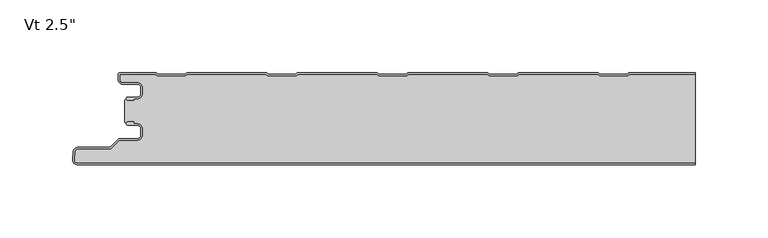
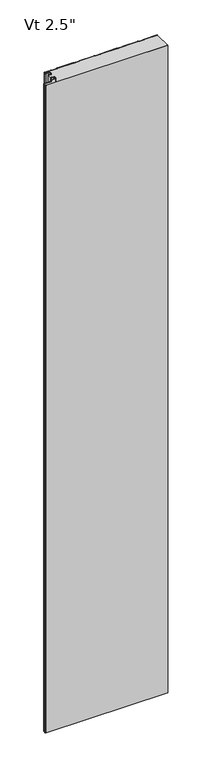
"""IFC4 building model written with IfcOpenShell, lengths in millimetres: plate geometry."""

from ifc_helpers import new_model, si_unit, point, frame, frame_2d, origin, origin_with_axes, place, context, project, spatial, polyline, circle_curve, trimmed, segment, composite_curve, outline, extrude, source, transform, mapped, element, save
from ifc_brep_helpers import plane_surface, cylinder_surface, revolved_surface, advanced_brep


def plate_ba7cd849(model_context):
    return source(origin(), model_context, "Body", "SolidModel", [
        advanced_brep(
        [(-194.568691, -17.001516, 2400.0), (-195.5686883, -18.0015192, 2400.0), (-194.568691, -19.0015105, 2400.0), (-190.5684874, -19.0015105, 2400.0), (-190.5684874, -18.001516, 2400.0), (-187.8762776, -18.001516, 2400.0), (-184.5762819, -14.7015203, 2400.0), (-184.5762819, -10.3015291, 2400.0), (-187.8762774, -7.0015336, 2400.0), (-198.2962563, -7.0015336, 2400.0), (-200.0662505, -5.2315394, 2400.0), (-200.0662505, -0.9999917, 2400.0), (-175.5659739, -0.9999917, 2400.0), (-174.1803313, -2.2002307, 2400.0), (-154.805165, -2.2002307, 2400.0), (-153.419532, -1.0, 2400.0), (-99.3661166, -0.9999999, 2400.0), (-97.9804837, -2.2002306, 2400.0), (-78.6053174, -2.2002306, 2400.0), (-77.2196844, -0.9999999, 2400.0), (-23.166269, -0.9999998, 2400.0), (-21.7806361, -2.2002305, 2400.0), (-2.4054698, -2.2002304, 2400.0), (-1.0198368, -0.9999997, 2400.0), (53.0335786, -0.9999996, 2400.0), (54.4192115, -2.2002303, 2400.0), (73.7943778, -2.2002303, 2400.0), (75.1800108, -0.9999996, 2400.0), (129.2334262, -0.9999995, 2400.0), (130.6190591, -2.2002302, 2400.0), (149.9942254, -2.2002302, 2400.0), (151.3798584, -0.9999995, 2400.0), (196.5999998, -0.9999994, 2400.0), (196.5999998, 6e-07, 2400.0), (151.5290095, 5e-07, 2400.0), (150.6123926, -0.341788, 2400.0), (149.621345, -1.2002302, 2400.0), (130.9919395, -1.2002302, 2400.0), (130.0008919, -0.341788, 2400.0), (129.084275, 5e-07, 2400.0), (75.3291619, 4e-07, 2400.0), (74.412545, -0.3417881, 2400.0), (73.4214974, -1.2002303, 2400.0), (54.7920919, -1.2002303, 2400.0), (53.8010443, -0.3417881, 2400.0), (52.8844274, 4e-07, 2400.0), (-0.8706857, 3e-07, 2400.0), (-1.7873026, -0.3417882, 2400.0), (-2.7783502, -1.2002304, 2400.0), (-21.4077557, -1.2002305, 2400.0), (-22.3988033, -0.3417883, 2400.0), (-23.3154202, 2e-07, 2400.0), (-77.0705333, 1e-07, 2400.0), (-77.9871502, -0.3417884, 2400.0), (-78.9781978, -1.2002306, 2400.0), (-97.6076033, -1.2002306, 2400.0), (-98.5986509, -0.3417884, 2400.0), (-99.5152678, 1e-07, 2400.0), (-153.2703809, 0.0, 2400.0), (-154.1869978, -0.3417885, 2400.0), (-155.1780454, -1.2002307, 2400.0), (-173.8074509, -1.2002307, 2400.0), (-174.7984985, -0.3417885, 2400.0), (-175.7152068, 0.0, 2400.0), (-199.6662544, 8.3e-06, 2400.0), (-201.0662505, -1.3999879, 2400.0), (-201.0662505, -5.2315394, 2400.0), (-198.2962563, -8.0015336, 2400.0), (-187.8762774, -8.0015336, 2400.0), (-185.5762819, -10.3015291, 2400.0), (-185.5762819, -14.7015203, 2400.0), (-187.8762776, -17.001516, 2400.0), (-194.568691, -17.001516, 0.0), (-187.8762776, -17.001516, 0.0), (-185.5762819, -14.7015203, 0.0), (-185.5762819, -10.3015291, 0.0), (-187.8762774, -8.0015336, 0.0), (-198.2962563, -8.0015336, 0.0), (-201.0662505, -5.2315394, 0.0), (-201.0662505, -1.3999879, 0.0), (-199.6662544, 8.3e-06, 0.0), (-175.7151154, 8.3e-06, 0.0), (-174.7984985, -0.3417885, 0.0), (-173.8074509, -1.2002307, 0.0), (-155.1780454, -1.2002307, 0.0), (-154.1869978, -0.3417885, 0.0), (-153.2703809, 0.0, 0.0), (-99.5152678, 1e-07, 0.0), (-98.5986509, -0.3417884, 0.0), (-97.6076033, -1.2002306, 0.0), (-78.9781978, -1.2002306, 0.0), (-77.9871502, -0.3417884, 0.0), (-77.0705333, 1e-07, 0.0), (-23.3154202, 2e-07, 0.0), (-22.3988033, -0.3417883, 0.0), (-21.4077557, -1.2002305, 0.0), (-2.7783502, -1.2002304, 0.0), (-1.7873026, -0.3417882, 0.0), (-0.8706857, 3e-07, 0.0), (52.8844274, 4e-07, 0.0), (53.8010443, -0.3417881, 0.0), (54.7920919, -1.2002303, 0.0), (73.4214974, -1.2002303, 0.0), (74.412545, -0.3417881, 0.0), (75.3291619, 4e-07, 0.0), (129.084275, 5e-07, 0.0), (130.0008919, -0.341788, 0.0), (130.9919395, -1.2002302, 0.0), (149.621345, -1.2002302, 0.0), (150.6123926, -0.341788, 0.0), (151.5290095, 5e-07, 0.0), (196.5999998, 6e-07, 0.0), (196.5999998, -0.9999994, 0.0), (151.3798584, -0.9999995, 0.0), (149.9942254, -2.2002302, 0.0), (130.6190591, -2.2002302, 0.0), (129.2334262, -0.9999995, 0.0), (75.1800108, -0.9999996, 0.0), (73.7943778, -2.2002303, 0.0), (54.4192115, -2.2002303, 0.0), (53.0335786, -0.9999996, 0.0), (-1.0198368, -0.9999997, 0.0), (-2.4054698, -2.2002304, 0.0), (-21.7806361, -2.2002305, 0.0), (-23.166269, -0.9999998, 0.0), (-77.2196844, -0.9999999, 0.0), (-78.6053174, -2.2002306, 0.0), (-97.9804837, -2.2002306, 0.0), (-99.3661166, -0.9999999, 0.0), (-153.419532, -1.0, 0.0), (-154.805165, -2.2002307, 0.0), (-174.1803313, -2.2002307, 0.0), (-175.5659739, -0.9999917, 0.0), (-200.0662505, -0.9999917, 0.0), (-200.0662505, -5.2315394, 0.0), (-198.2962563, -7.0015336, 0.0), (-187.8762774, -7.0015336, 0.0), (-184.5762819, -10.3015291, 0.0), (-184.5762819, -14.7015203, 0.0), (-187.8762776, -18.001516, 0.0), (-190.5684874, -18.001516, 0.0), (-190.5684874, -19.0015105, 0.0), (-194.568691, -19.0015105, 0.0), (-195.5686882, -18.0015193, 0.0)],
        [
            (0, 1, circle_curve(frame((-194.568691, -18.0015133, 2400.0), z_axis=(0.0, 0.0, 1.0), x_axis=(1.0, 1.7886125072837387e-09, 0.0)), 0.9999973)),
            (1, 2, circle_curve(frame((-194.568691, -18.0015133, 2400.0), z_axis=(0.0, 0.0, 1.0), x_axis=(1.0, 1.7886125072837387e-09, 0.0)), 0.9999972)),
            (2, 3),
            (3, 4),
            (4, 5),
            (5, 6, circle_curve(frame((-187.8762776, -14.7015203, 2400.0), z_axis=(0.0, 0.0, 1.0), x_axis=(1.0, 1.7886125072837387e-09, 0.0)), 3.2999957)),
            (6, 7),
            (7, 8, circle_curve(frame((-187.8762774, -10.3015291, 2400.0), z_axis=(0.0, 0.0, 1.0), x_axis=(1.0, 1.7886125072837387e-09, 0.0)), 3.2999955)),
            (8, 9),
            (9, 10, circle_curve(frame((-198.2962563, -5.2315394, 2400.0), z_axis=(0.0, 0.0, -1.0), x_axis=(1.0, 1.7886125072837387e-09, 0.0)), 1.7699942)),
            (10, 11),
            (11, 12),
            (12, 13),
            (13, 14),
            (14, 15),
            (15, 16),
            (16, 17),
            (17, 18),
            (18, 19),
            (19, 20),
            (20, 21),
            (21, 22),
            (22, 23),
            (23, 24),
            (24, 25),
            (25, 26),
            (26, 27),
            (27, 28),
            (28, 29),
            (29, 30),
            (30, 31),
            (31, 32),
            (32, 33),
            (33, 34),
            (34, 35, circle_curve(frame((151.5290095, -1.3999967, 2400.0), z_axis=(0.0, 0.0, 1.0), x_axis=(1.0, 1.7886125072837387e-09, 0.0)), 1.3999972)),
            (35, 36),
            (36, 37),
            (37, 38),
            (38, 39, circle_curve(frame((129.084275, -1.3999967, 2400.0), z_axis=(0.0, 0.0, 1.0), x_axis=(1.0, 1.7886125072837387e-09, 0.0)), 1.3999972)),
            (39, 40),
            (40, 41, circle_curve(frame((75.3291619, -1.3999968, 2400.0), z_axis=(0.0, 0.0, 1.0), x_axis=(1.0, 1.7886125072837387e-09, 0.0)), 1.3999972)),
            (41, 42),
            (42, 43),
            (43, 44),
            (44, 45, circle_curve(frame((52.8844274, -1.3999968, 2400.0), z_axis=(0.0, 0.0, 1.0), x_axis=(1.0, 1.7886125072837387e-09, 0.0)), 1.3999972)),
            (45, 46),
            (46, 47, circle_curve(frame((-0.8706857, -1.3999969, 2400.0), z_axis=(0.0, 0.0, 1.0), x_axis=(1.0, 1.7886125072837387e-09, 0.0)), 1.3999972)),
            (47, 48),
            (48, 49),
            (49, 50),
            (50, 51, circle_curve(frame((-23.3154202, -1.399997, 2400.0), z_axis=(0.0, 0.0, 1.0), x_axis=(1.0, 1.7886125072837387e-09, 0.0)), 1.3999972)),
            (51, 52),
            (52, 53, circle_curve(frame((-77.0705333, -1.3999971, 2400.0), z_axis=(0.0, 0.0, 1.0), x_axis=(1.0, 1.7886125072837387e-09, 0.0)), 1.3999972)),
            (53, 54),
            (54, 55),
            (55, 56),
            (56, 57, circle_curve(frame((-99.5152678, -1.3999971, 2400.0), z_axis=(0.0, 0.0, 1.0), x_axis=(1.0, 1.7886125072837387e-09, 0.0)), 1.3999972)),
            (57, 58),
            (58, 59, circle_curve(frame((-153.2703809, -1.3999972, 2400.0), z_axis=(0.0, 0.0, 1.0), x_axis=(1.0, 1.7886125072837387e-09, 0.0)), 1.3999972)),
            (59, 60),
            (60, 61),
            (61, 62),
            (62, 63, circle_curve(frame((-175.7151154, -1.3999972, 2400.0), z_axis=(0.0, 0.0, 1.0), x_axis=(1.0, 1.7886125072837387e-09, 0.0)), 1.3999972)),
            (63, 64),
            (64, 65, circle_curve(frame((-199.6662544, -1.3999879, 2400.0), z_axis=(0.0, 0.0, 1.0), x_axis=(1.0, 1.7886125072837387e-09, 0.0)), 1.3999962)),
            (65, 66),
            (66, 67, circle_curve(frame((-198.2962563, -5.2315394, 2400.0), z_axis=(0.0, 0.0, 1.0), x_axis=(1.0, 1.7886125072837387e-09, 0.0)), 2.7699942)),
            (67, 68),
            (68, 69, circle_curve(frame((-187.8762774, -10.3015291, 2400.0), z_axis=(0.0, 0.0, -1.0), x_axis=(1.0, 1.7886125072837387e-09, 0.0)), 2.2999955)),
            (69, 70),
            (70, 71, circle_curve(frame((-187.8762776, -14.7015203, 2400.0), z_axis=(0.0, 0.0, -1.0), x_axis=(1.0, 1.7886125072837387e-09, 0.0)), 2.2999957)),
            (71, 0),
            (72, 73),
            (73, 74, circle_curve(frame((-187.8762776, -14.7015203, 0.0), z_axis=(0.0, 0.0, 1.0), x_axis=(1.0, 1.7886125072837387e-09, 0.0)), 2.2999957)),
            (74, 75),
            (75, 76, circle_curve(frame((-187.8762774, -10.3015291, 0.0), z_axis=(0.0, 0.0, 1.0), x_axis=(1.0, 1.7886125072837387e-09, 0.0)), 2.2999955)),
            (76, 77),
            (77, 78, circle_curve(frame((-198.2962563, -5.2315394, 0.0), z_axis=(0.0, 0.0, -1.0), x_axis=(1.0, 1.7886125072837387e-09, 0.0)), 2.7699942)),
            (78, 79),
            (79, 80, circle_curve(frame((-199.6662544, -1.3999879, 0.0), z_axis=(0.0, 0.0, -1.0), x_axis=(1.0, 1.7886125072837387e-09, 0.0)), 1.3999962)),
            (80, 81),
            (81, 82, circle_curve(frame((-175.7151154, -1.3999972, 0.0), z_axis=(0.0, 0.0, -1.0), x_axis=(1.0, 1.7886125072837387e-09, 0.0)), 1.3999972)),
            (82, 83),
            (83, 84),
            (84, 85),
            (85, 86, circle_curve(frame((-153.2703809, -1.3999972, 0.0), z_axis=(0.0, 0.0, -1.0), x_axis=(1.0, 1.7886125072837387e-09, 0.0)), 1.3999972)),
            (86, 87),
            (87, 88, circle_curve(frame((-99.5152678, -1.3999971, 0.0), z_axis=(0.0, 0.0, -1.0), x_axis=(1.0, 1.7886125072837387e-09, 0.0)), 1.3999972)),
            (88, 89),
            (89, 90),
            (90, 91),
            (91, 92, circle_curve(frame((-77.0705333, -1.3999971, 0.0), z_axis=(0.0, 0.0, -1.0), x_axis=(1.0, 1.7886125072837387e-09, 0.0)), 1.3999972)),
            (92, 93),
            (93, 94, circle_curve(frame((-23.3154202, -1.399997, 0.0), z_axis=(0.0, 0.0, -1.0), x_axis=(1.0, 1.7886125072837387e-09, 0.0)), 1.3999972)),
            (94, 95),
            (95, 96),
            (96, 97),
            (97, 98, circle_curve(frame((-0.8706857, -1.3999969, 0.0), z_axis=(0.0, 0.0, -1.0), x_axis=(1.0, 1.7886125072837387e-09, 0.0)), 1.3999972)),
            (98, 99),
            (99, 100, circle_curve(frame((52.8844274, -1.3999968, 0.0), z_axis=(0.0, 0.0, -1.0), x_axis=(1.0, 1.7886125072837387e-09, 0.0)), 1.3999972)),
            (100, 101),
            (101, 102),
            (102, 103),
            (103, 104, circle_curve(frame((75.3291619, -1.3999968, 0.0), z_axis=(0.0, 0.0, -1.0), x_axis=(1.0, 1.7886125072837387e-09, 0.0)), 1.3999972)),
            (104, 105),
            (105, 106, circle_curve(frame((129.084275, -1.3999967, 0.0), z_axis=(0.0, 0.0, -1.0), x_axis=(1.0, 1.7886125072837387e-09, 0.0)), 1.3999972)),
            (106, 107),
            (107, 108),
            (108, 109),
            (109, 110, circle_curve(frame((151.5290095, -1.3999967, 0.0), z_axis=(0.0, 0.0, -1.0), x_axis=(1.0, 1.7886125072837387e-09, 0.0)), 1.3999972)),
            (110, 111),
            (111, 112),
            (112, 113),
            (113, 114),
            (114, 115),
            (115, 116),
            (116, 117),
            (117, 118),
            (118, 119),
            (119, 120),
            (120, 121),
            (121, 122),
            (122, 123),
            (123, 124),
            (124, 125),
            (125, 126),
            (126, 127),
            (127, 128),
            (128, 129),
            (129, 130),
            (130, 131),
            (131, 132),
            (132, 133),
            (133, 134),
            (134, 135, circle_curve(frame((-198.2962563, -5.2315394, 0.0), z_axis=(0.0, 0.0, 1.0), x_axis=(1.0, 1.7886125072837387e-09, 0.0)), 1.7699942)),
            (135, 136),
            (136, 137, circle_curve(frame((-187.8762774, -10.3015291, 0.0), z_axis=(0.0, 0.0, -1.0), x_axis=(1.0, 1.7886125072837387e-09, 0.0)), 3.2999955)),
            (137, 138),
            (138, 139, circle_curve(frame((-187.8762776, -14.7015203, 0.0), z_axis=(0.0, 0.0, -1.0), x_axis=(1.0, 1.7886125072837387e-09, 0.0)), 3.2999957)),
            (139, 140),
            (140, 141),
            (141, 142),
            (142, 143, circle_curve(frame((-194.568691, -18.0015133, 0.0), z_axis=(0.0, 0.0, -1.0), x_axis=(1.0, 1.7886125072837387e-09, 0.0)), 0.9999972)),
            (143, 72, circle_curve(frame((-194.568691, -18.0015133, 0.0), z_axis=(0.0, 0.0, -1.0), x_axis=(1.0, 1.7886125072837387e-09, 0.0)), 0.9999973)),
            (32, 112),
            (111, 33),
            (71, 73),
            (72, 0),
            (70, 74),
            (69, 75),
            (68, 76),
            (67, 77),
            (66, 78),
            (65, 79),
            (64, 80),
            (63, 81),
            (62, 82),
            (61, 83),
            (60, 84),
            (59, 85),
            (58, 86),
            (57, 87),
            (56, 88),
            (55, 89),
            (54, 90),
            (53, 91),
            (52, 92),
            (51, 93),
            (50, 94),
            (49, 95),
            (48, 96),
            (47, 97),
            (46, 98),
            (45, 99),
            (44, 100),
            (43, 101),
            (42, 102),
            (41, 103),
            (40, 104),
            (39, 105),
            (38, 106),
            (37, 107),
            (36, 108),
            (35, 109),
            (34, 110),
            (31, 113),
            (30, 114),
            (29, 115),
            (28, 116),
            (27, 117),
            (26, 118),
            (25, 119),
            (24, 120),
            (23, 121),
            (22, 122),
            (21, 123),
            (20, 124),
            (19, 125),
            (18, 126),
            (17, 127),
            (16, 128),
            (15, 129),
            (14, 130),
            (13, 131),
            (12, 132),
            (11, 133),
            (10, 134),
            (9, 135),
            (8, 136),
            (7, 137),
            (6, 138),
            (5, 139),
            (4, 140),
            (3, 141),
            (2, 142),
            (1, 143),
        ],
        [
            plane_surface(frame((336.8000001, 9e-07, 2400.0), z_axis=(0.0, 0.0, 1.0), x_axis=(-1.7886125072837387e-09, 1.0, 0.0))),
            plane_surface(frame((336.8000001, 9e-07, 0.0), z_axis=(0.0, 0.0, -1.0), x_axis=(-1.7886125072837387e-09, 1.0, 0.0))),
            plane_surface(frame((196.5999999, -73.4999994, 2400.0), z_axis=(1.0, 1.7886125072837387e-09, 0.0), x_axis=(0.0, 0.0, -1.0))),
            plane_surface(frame((-194.568691, -17.001516, 2400.0), z_axis=(-1.7886125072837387e-09, 1.0, 0.0), x_axis=(0.0, 0.0, -1.0))),
            revolved_surface(polyline([(-185.5762819, -14.7015202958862, 0.0), (-185.5762819, -14.7015202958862, 2400.0)]), (-187.8762776, -14.7015203, 2400.0), (0.0, 0.0, -1.0)),
            plane_surface(frame((-185.5762819, -14.7015203, 2400.0), z_axis=(-1.0, -1.7886125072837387e-09, 0.0), x_axis=(0.0, 0.0, -1.0))),
            revolved_surface(polyline([(-185.5762819, -10.301529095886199, 0.0), (-185.5762819, -10.301529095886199, 2400.0)]), (-187.8762774, -10.3015291, 2400.0), (0.0, 0.0, -1.0)),
            plane_surface(frame((-187.8762774, -8.0015336, 2400.0), z_axis=(1.7886125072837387e-09, -1.0, 0.0), x_axis=(0.0, 0.0, -1.0))),
            cylinder_surface(frame((-198.2962563, -5.2315394, 2400.0), z_axis=(0.0, 0.0, 1.0), x_axis=(1.0, 1.7886125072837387e-09, 0.0)), 2.7699942),
            plane_surface(frame((-201.0662505, -5.2315394, 2400.0), z_axis=(-1.0, -1.7886125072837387e-09, 0.0), x_axis=(0.0, 0.0, -1.0))),
            cylinder_surface(frame((-199.6662544, -1.3999879, 2400.0), z_axis=(0.0, 0.0, 1.0), x_axis=(1.0, 1.7886125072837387e-09, 0.0)), 1.3999962),
            plane_surface(frame((-199.6662544, 8.3e-06, 2400.0), z_axis=(-1.7886125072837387e-09, 1.0, 0.0), x_axis=(0.0, 0.0, -1.0))),
            cylinder_surface(frame((-175.7151154, -1.3999972, 2400.0), z_axis=(0.0, 0.0, 1.0), x_axis=(1.0, 1.7886125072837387e-09, 0.0)), 1.3999972),
            plane_surface(frame((-174.7984985, -0.3417885, 2400.0), z_axis=(0.6547276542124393, 0.755864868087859, 0.0), x_axis=(0.0, 0.0, -1.0))),
            plane_surface(frame((-164.4927481, -1.2002307, 2400.0), z_axis=(-1.7886125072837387e-09, 1.0, 0.0), x_axis=(0.0, 0.0, -1.0))),
            plane_surface(frame((-155.1780454, -1.2002307, 2400.0), z_axis=(-0.6547276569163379, 0.755864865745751, 0.0), x_axis=(0.0, 0.0, -1.0))),
            cylinder_surface(frame((-153.2703809, -1.3999972, 2400.0), z_axis=(0.0, 0.0, 1.0), x_axis=(1.0, 1.7886125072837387e-09, 0.0)), 1.3999972),
            plane_surface(frame((-153.2703809, 0.0, 2400.0), z_axis=(-1.7886074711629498e-09, 1.0, 0.0), x_axis=(0.0, 0.0, -1.0))),
            cylinder_surface(frame((-99.5152678, -1.3999971, 2400.0), z_axis=(0.0, 0.0, 1.0), x_axis=(1.0, 1.7886125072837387e-09, 0.0)), 1.3999972),
            plane_surface(frame((-98.5986509, -0.3417884, 2400.0), z_axis=(0.6547276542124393, 0.755864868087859, 0.0), x_axis=(0.0, 0.0, -1.0))),
            plane_surface(frame((-88.2929005, -1.2002306, 2400.0), z_axis=(-1.7886125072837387e-09, 1.0, 0.0), x_axis=(0.0, 0.0, -1.0))),
            plane_surface(frame((-78.9781978, -1.2002306, 2400.0), z_axis=(-0.6547276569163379, 0.755864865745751, 0.0), x_axis=(0.0, 0.0, -1.0))),
            cylinder_surface(frame((-77.0705333, -1.3999971, 2400.0), z_axis=(0.0, 0.0, 1.0), x_axis=(1.0, 1.7886125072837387e-09, 0.0)), 1.3999972),
            plane_surface(frame((-77.0705333, 1e-07, 2400.0), z_axis=(-1.7886074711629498e-09, 1.0, 0.0), x_axis=(0.0, 0.0, -1.0))),
            cylinder_surface(frame((-23.3154202, -1.399997, 2400.0), z_axis=(0.0, 0.0, 1.0), x_axis=(1.0, 1.7886125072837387e-09, 0.0)), 1.3999972),
            plane_surface(frame((-22.3988033, -0.3417883, 2400.0), z_axis=(0.6547276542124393, 0.755864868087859, 0.0), x_axis=(0.0, 0.0, -1.0))),
            plane_surface(frame((-12.0930529, -1.2002305, 2400.0), z_axis=(-1.7886125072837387e-09, 1.0, 0.0), x_axis=(0.0, 0.0, -1.0))),
            plane_surface(frame((-2.7783502, -1.2002304, 2400.0), z_axis=(-0.6547276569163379, 0.755864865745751, 0.0), x_axis=(0.0, 0.0, -1.0))),
            cylinder_surface(frame((-0.8706857, -1.3999969, 2400.0), z_axis=(0.0, 0.0, 1.0), x_axis=(1.0, 1.7886125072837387e-09, 0.0)), 1.3999972),
            plane_surface(frame((-0.8706857, 3e-07, 2400.0), z_axis=(-1.7886074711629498e-09, 1.0, 0.0), x_axis=(0.0, 0.0, -1.0))),
            cylinder_surface(frame((52.8844274, -1.3999968, 2400.0), z_axis=(0.0, 0.0, 1.0), x_axis=(1.0, 1.7886125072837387e-09, 0.0)), 1.3999972),
            plane_surface(frame((53.8010443, -0.3417881, 2400.0), z_axis=(0.6547276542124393, 0.755864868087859, 0.0), x_axis=(0.0, 0.0, -1.0))),
            plane_surface(frame((64.1067947, -1.2002303, 2400.0), z_axis=(-1.7886125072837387e-09, 1.0, 0.0), x_axis=(0.0, 0.0, -1.0))),
            plane_surface(frame((73.4214974, -1.2002303, 2400.0), z_axis=(-0.6547276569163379, 0.755864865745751, 0.0), x_axis=(0.0, 0.0, -1.0))),
            cylinder_surface(frame((75.3291619, -1.3999968, 2400.0), z_axis=(0.0, 0.0, 1.0), x_axis=(1.0, 1.7886125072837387e-09, 0.0)), 1.3999972),
            plane_surface(frame((75.3291619, 4e-07, 2400.0), z_axis=(-1.7886074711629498e-09, 1.0, 0.0), x_axis=(0.0, 0.0, -1.0))),
            cylinder_surface(frame((129.084275, -1.3999967, 2400.0), z_axis=(0.0, 0.0, 1.0), x_axis=(1.0, 1.7886125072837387e-09, 0.0)), 1.3999972),
            plane_surface(frame((130.0008919, -0.341788, 2400.0), z_axis=(0.6547276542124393, 0.755864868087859, 0.0), x_axis=(0.0, 0.0, -1.0))),
            plane_surface(frame((140.3066423, -1.2002302, 2400.0), z_axis=(-1.7886125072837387e-09, 1.0, 0.0), x_axis=(0.0, 0.0, -1.0))),
            plane_surface(frame((149.621345, -1.2002302, 2400.0), z_axis=(-0.6547276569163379, 0.755864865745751, 0.0), x_axis=(0.0, 0.0, -1.0))),
            cylinder_surface(frame((151.5290095, -1.3999967, 2400.0), z_axis=(0.0, 0.0, 1.0), x_axis=(1.0, 1.7886125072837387e-09, 0.0)), 1.3999972),
            plane_surface(frame((151.5290095, 5e-07, 2400.0), z_axis=(-1.7886074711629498e-09, 1.0, 0.0), x_axis=(0.0, 0.0, -1.0))),
            plane_surface(frame((205.4332738, -0.9999994, 2400.0), z_axis=(1.7886074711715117e-09, -1.0, 0.0), x_axis=(0.0, 0.0, -1.0))),
            plane_surface(frame((151.3798584, -0.9999995, 2400.0), z_axis=(0.6547276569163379, -0.755864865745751, 0.0), x_axis=(0.0, 0.0, -1.0))),
            plane_surface(frame((149.9942254, -2.2002302, 2400.0), z_axis=(1.7886125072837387e-09, -1.0, 0.0), x_axis=(0.0, 0.0, -1.0))),
            plane_surface(frame((130.6190591, -2.2002302, 2400.0), z_axis=(-0.6547276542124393, -0.755864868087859, 0.0), x_axis=(0.0, 0.0, -1.0))),
            plane_surface(frame((129.2334262, -0.9999995, 2400.0), z_axis=(1.7886074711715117e-09, -1.0, 0.0), x_axis=(0.0, 0.0, -1.0))),
            plane_surface(frame((75.1800108, -0.9999996, 2400.0), z_axis=(0.6547276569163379, -0.755864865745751, 0.0), x_axis=(0.0, 0.0, -1.0))),
            plane_surface(frame((73.7943778, -2.2002303, 2400.0), z_axis=(1.7886125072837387e-09, -1.0, 0.0), x_axis=(0.0, 0.0, -1.0))),
            plane_surface(frame((54.4192115, -2.2002303, 2400.0), z_axis=(-0.6547276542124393, -0.755864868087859, 0.0), x_axis=(0.0, 0.0, -1.0))),
            plane_surface(frame((53.0335786, -0.9999996, 2400.0), z_axis=(1.7886074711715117e-09, -1.0, 0.0), x_axis=(0.0, 0.0, -1.0))),
            plane_surface(frame((-1.0198368, -0.9999997, 2400.0), z_axis=(0.6547276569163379, -0.755864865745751, 0.0), x_axis=(0.0, 0.0, -1.0))),
            plane_surface(frame((-2.4054698, -2.2002304, 2400.0), z_axis=(1.7886125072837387e-09, -1.0, 0.0), x_axis=(0.0, 0.0, -1.0))),
            plane_surface(frame((-21.7806361, -2.2002305, 2400.0), z_axis=(-0.6547276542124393, -0.755864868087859, 0.0), x_axis=(0.0, 0.0, -1.0))),
            plane_surface(frame((-23.166269, -0.9999998, 2400.0), z_axis=(1.7886074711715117e-09, -1.0, 0.0), x_axis=(0.0, 0.0, -1.0))),
            plane_surface(frame((-77.2196844, -0.9999999, 2400.0), z_axis=(0.6547276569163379, -0.755864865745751, 0.0), x_axis=(0.0, 0.0, -1.0))),
            plane_surface(frame((-78.6053174, -2.2002306, 2400.0), z_axis=(1.7886125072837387e-09, -1.0, 0.0), x_axis=(0.0, 0.0, -1.0))),
            plane_surface(frame((-97.9804837, -2.2002306, 2400.0), z_axis=(-0.6547276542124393, -0.755864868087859, 0.0), x_axis=(0.0, 0.0, -1.0))),
            plane_surface(frame((-99.3661166, -0.9999999, 2400.0), z_axis=(1.7886074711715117e-09, -1.0, 0.0), x_axis=(0.0, 0.0, -1.0))),
            plane_surface(frame((-153.419532, -1.0, 2400.0), z_axis=(0.6547276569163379, -0.755864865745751, 0.0), x_axis=(0.0, 0.0, -1.0))),
            plane_surface(frame((-154.805165, -2.2002307, 2400.0), z_axis=(1.7886125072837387e-09, -1.0, 0.0), x_axis=(0.0, 0.0, -1.0))),
            plane_surface(frame((-174.1803313, -2.2002307, 2400.0), z_axis=(-0.6547276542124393, -0.755864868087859, 0.0), x_axis=(0.0, 0.0, -1.0))),
            plane_surface(frame((-175.5659739, -0.9999917, 2400.0), z_axis=(1.7886125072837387e-09, -1.0, 0.0), x_axis=(0.0, 0.0, -1.0))),
            plane_surface(frame((-200.0662505, -0.9999917, 2400.0), z_axis=(1.0, 1.7886125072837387e-09, 0.0), x_axis=(0.0, 0.0, -1.0))),
            revolved_surface(polyline([(-196.5262621, -5.231539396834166, 0.0), (-196.5262621, -5.231539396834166, 2400.0)]), (-198.2962563, -5.2315394, 2400.0), (0.0, 0.0, -1.0)),
            plane_surface(frame((-198.2962563, -7.0015336, 2400.0), z_axis=(-1.7886125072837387e-09, 1.0, 0.0), x_axis=(0.0, 0.0, -1.0))),
            cylinder_surface(frame((-187.8762774, -10.3015291, 2400.0), z_axis=(0.0, 0.0, 1.0), x_axis=(1.0, 1.7886125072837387e-09, 0.0)), 3.2999955),
            plane_surface(frame((-184.5762819, -10.3015291, 2400.0), z_axis=(1.0, 1.7886125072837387e-09, 0.0), x_axis=(0.0, 0.0, -1.0))),
            cylinder_surface(frame((-187.8762776, -14.7015203, 2400.0), z_axis=(0.0, 0.0, 1.0), x_axis=(1.0, 1.7886125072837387e-09, 0.0)), 3.2999957),
            plane_surface(frame((-187.8762776, -18.001516, 2400.0), z_axis=(1.7886125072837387e-09, -1.0, 0.0), x_axis=(0.0, 0.0, -1.0))),
            plane_surface(frame((-190.5684874, -18.001516, 2400.0), z_axis=(1.0, 1.7886125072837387e-09, 0.0), x_axis=(0.0, 0.0, -1.0))),
            plane_surface(frame((-190.5684874, -19.0015105, 2400.0), z_axis=(1.7886125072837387e-09, -1.0, 0.0), x_axis=(0.0, 0.0, -1.0))),
            cylinder_surface(frame((-194.568691, -18.0015133, 2400.0), z_axis=(0.0, 0.0, 1.0), x_axis=(1.0, 1.7886125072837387e-09, 0.0)), 0.9999972),
            cylinder_surface(frame((-194.568691, -18.0015133, 2400.0), z_axis=(0.0, 0.0, 1.0), x_axis=(1.0, 1.7886125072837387e-09, 0.0)), 0.9999973),
        ],
        [
            (0, [[1, 2, 3, 4, 5, 6, 7, 8, 9, 10, 11, 12, 13, 14, 15, 16, 17, 18, 19, 20, 21, 22, 23, 24, 25, 26, 27, 28, 29, 30, 31, 32, 33, 34, 35, 36, 37, 38, 39, 40, 41, 42, 43, 44, 45, 46, 47, 48, 49, 50, 51, 52, 53, 54, 55, 56, 57, 58, 59, 60, 61, 62, 63, 64, 65, 66, 67, 68, 69, 70, 71, 72]]),
            (1, [[73, 74, 75, 76, 77, 78, 79, 80, 81, 82, 83, 84, 85, 86, 87, 88, 89, 90, 91, 92, 93, 94, 95, 96, 97, 98, 99, 100, 101, 102, 103, 104, 105, 106, 107, 108, 109, 110, 111, 112, 113, 114, 115, 116, 117, 118, 119, 120, 121, 122, 123, 124, 125, 126, 127, 128, 129, 130, 131, 132, 133, 134, 135, 136, 137, 138, 139, 140, 141, 142, 143, 144]]),
            (2, [[145, -112, 146, -33]]),
            (3, [[147, -73, 148, -72]]),
            (4, [[149, -74, -147, -71]]),
            (5, [[150, -75, -149, -70]]),
            (6, [[151, -76, -150, -69]]),
            (7, [[152, -77, -151, -68]]),
            (8, [[153, -78, -152, -67]]),
            (9, [[154, -79, -153, -66]]),
            (10, [[155, -80, -154, -65]]),
            (11, [[156, -81, -155, -64]]),
            (12, [[157, -82, -156, -63]]),
            (13, [[158, -83, -157, -62]]),
            (14, [[159, -84, -158, -61]]),
            (15, [[160, -85, -159, -60]]),
            (16, [[161, -86, -160, -59]]),
            (17, [[162, -87, -161, -58]]),
            (18, [[163, -88, -162, -57]]),
            (19, [[164, -89, -163, -56]]),
            (20, [[165, -90, -164, -55]]),
            (21, [[166, -91, -165, -54]]),
            (22, [[167, -92, -166, -53]]),
            (23, [[168, -93, -167, -52]]),
            (24, [[169, -94, -168, -51]]),
            (25, [[170, -95, -169, -50]]),
            (26, [[171, -96, -170, -49]]),
            (27, [[172, -97, -171, -48]]),
            (28, [[173, -98, -172, -47]]),
            (29, [[174, -99, -173, -46]]),
            (30, [[175, -100, -174, -45]]),
            (31, [[176, -101, -175, -44]]),
            (32, [[177, -102, -176, -43]]),
            (33, [[178, -103, -177, -42]]),
            (34, [[179, -104, -178, -41]]),
            (35, [[180, -105, -179, -40]]),
            (36, [[181, -106, -180, -39]]),
            (37, [[182, -107, -181, -38]]),
            (38, [[183, -108, -182, -37]]),
            (39, [[184, -109, -183, -36]]),
            (40, [[185, -110, -184, -35]]),
            (41, [[-34, -146, -111, -185]]),
            (42, [[-113, -145, -32, 186]]),
            (43, [[187, -114, -186, -31]]),
            (44, [[188, -115, -187, -30]]),
            (45, [[189, -116, -188, -29]]),
            (46, [[190, -117, -189, -28]]),
            (47, [[191, -118, -190, -27]]),
            (48, [[192, -119, -191, -26]]),
            (49, [[193, -120, -192, -25]]),
            (50, [[194, -121, -193, -24]]),
            (51, [[195, -122, -194, -23]]),
            (52, [[196, -123, -195, -22]]),
            (53, [[197, -124, -196, -21]]),
            (54, [[198, -125, -197, -20]]),
            (55, [[199, -126, -198, -19]]),
            (56, [[200, -127, -199, -18]]),
            (57, [[201, -128, -200, -17]]),
            (58, [[202, -129, -201, -16]]),
            (59, [[203, -130, -202, -15]]),
            (60, [[204, -131, -203, -14]]),
            (61, [[205, -132, -204, -13]]),
            (62, [[206, -133, -205, -12]]),
            (63, [[207, -134, -206, -11]]),
            (64, [[208, -135, -207, -10]]),
            (65, [[209, -136, -208, -9]]),
            (66, [[210, -137, -209, -8]]),
            (67, [[211, -138, -210, -7]]),
            (68, [[212, -139, -211, -6]]),
            (69, [[213, -140, -212, -5]]),
            (70, [[214, -141, -213, -4]]),
            (71, [[215, -142, -214, -3]]),
            (72, [[216, -143, -215, -2]]),
            (73, [[-148, -144, -216, -1]]),
        ],
    ),
        extrude(outline(composite_curve([segment(polyline([(-232.6087618, -59.6184904), (-232.1690673, -54.5944438)]), True, "CONTINUOUS"), segment(trimmed(circle_curve(frame_2d((-228.519839, -55.2052449)), 3.6999926), [point((-232.1690673, -54.5944438))], [point((-228.519839, -51.5052523))], False, "CARTESIAN"), True, "CONTINUOUS"), segment(polyline([(-228.519839, -51.5052523), (-207.3773995, -51.5052523)]), True, "CONTINUOUS"), segment(trimmed(circle_curve(frame_2d((-207.3773995, -50.2052549)), 1.2999974), [point((-207.3773995, -51.5052523))], [point((-206.4581625, -51.1244919))], True, "CARTESIAN"), True, "CONTINUOUS"), segment(polyline([(-206.4581625, -51.1244919), (-201.6297451, -46.2960744)]), True, "CONTINUOUS"), segment(trimmed(circle_curve(frame_2d((-199.7205606, -48.2052589)), 2.6999946), [point((-201.6297451, -46.2960744))], [point((-199.7205606, -45.5052643))], False, "CARTESIAN"), True, "CONTINUOUS"), segment(polyline([(-199.7205606, -45.5052643), (-187.9096715, -45.5052643)]), True, "CONTINUOUS"), segment(trimmed(circle_curve(frame_2d((-187.9096715, -43.155269)), 2.3499953), [point((-187.9096715, -45.5052643))], [point((-185.5596762, -43.155269))], True, "CARTESIAN"), True, "CONTINUOUS"), segment(polyline([(-185.5596762, -43.155269), (-185.5596762, -38.7552778)]), True, "CONTINUOUS"), segment(trimmed(circle_curve(frame_2d((-187.9096715, -38.7552778)), 2.3499953), [point((-185.5596762, -38.7552778))], [point((-187.9096715, -36.4052825))], True, "CARTESIAN"), True, "CONTINUOUS"), segment(polyline([(-187.9096715, -36.4052825), (-194.4289777, -36.4052825)]), True, "CONTINUOUS"), segment(trimmed(circle_curve(frame_2d((-194.3686906, -35.2068002)), 1.1999976), [point((-194.4289777, -36.4052825))], [point((-195.5683, -35.1762783))], False, "CARTESIAN"), True, "CONTINUOUS"), segment(trimmed(circle_curve(frame_2d((-194.3686906, -35.2068002)), 1.1999976), [point((-195.5683, -35.1762783))], [point((-194.367176, -34.0068036))], False, "CARTESIAN"), True, "CONTINUOUS"), segment(polyline([(-194.367176, -34.0068036), (-190.6087826, -34.0068036), (-190.6087826, -35.4052825), (-187.9096715, -35.4052825)]), True, "CONTINUOUS"), segment(trimmed(circle_curve(frame_2d((-187.9096715, -38.7552778)), 3.3499953), [point((-187.9096715, -35.4052825))], [point((-184.5596762, -38.7552778))], False, "CARTESIAN"), True, "CONTINUOUS"), segment(polyline([(-184.5596762, -38.7552778), (-184.5596762, -43.155269)]), True, "CONTINUOUS"), segment(trimmed(circle_curve(frame_2d((-187.9096715, -43.155269)), 3.3499953), [point((-184.5596762, -43.155269))], [point((-187.9096715, -46.5052643))], False, "CARTESIAN"), True, "CONTINUOUS"), segment(polyline([(-187.9096715, -46.5052643), (-199.7205606, -46.5052643)]), True, "CONTINUOUS"), segment(trimmed(circle_curve(frame_2d((-199.7205606, -48.2052589)), 1.6999946), [point((-199.7205606, -46.5052643))], [point((-200.9226383, -47.0031812))], True, "CARTESIAN"), True, "CONTINUOUS"), segment(polyline([(-200.9226383, -47.0031812), (-206.4247094, -52.5052523), (-228.519839, -52.5052523)]), True, "CONTINUOUS"), segment(trimmed(circle_curve(frame_2d((-228.519839, -55.2052449)), 2.6999926), [point((-228.519839, -52.5052523))], [point((-231.1765707, -54.7238543))], True, "CARTESIAN"), True, "CONTINUOUS"), segment(polyline([(-231.1765707, -54.7238543), (-231.6125697, -59.7056752)]), True, "CONTINUOUS"), segment(trimmed(circle_curve(frame_2d((-229.0521174, -59.9297608)), 2.5702393), [point((-231.6125697, -59.7056752))], [point((-229.1094458, -62.4993607))], True, "CARTESIAN"), True, "CONTINUOUS"), segment(polyline([(-229.1094458, -62.4993607), (196.5999999, -62.4993599), (196.5999999, -63.4999994), (-229.0521174, -63.5000001)]), True, "CONTINUOUS"), segment(trimmed(circle_curve(frame_2d((-229.0521174, -59.9297608)), 3.5702393), [point((-229.0521174, -63.5000001))], [point((-232.6087618, -59.6184904))], False, "CARTESIAN"), True, "CONTINUOUS")], self_intersect=False)), origin_with_axes(), (0.0, 0.0, 1.0), 2400.0),
        advanced_brep(
        [(-195.5683, -35.1708751, 2400.0), (-194.367176, -34.0014003, 2400.0), (-190.6087826, -34.0014003, 2400.0), (-190.6087826, -35.3998792, 2400.0), (-187.9096715, -35.3998792, 2400.0), (-184.5596762, -38.7498745, 2400.0), (-184.5596762, -43.1498657, 2400.0), (-187.9096715, -46.499861, 2400.0), (-199.7205606, -46.499861, 2400.0), (-200.9226383, -46.9977779, 2400.0), (-206.4247094, -52.499849, 2400.0), (-228.519839, -52.4998491, 2400.0), (-231.1765707, -54.7184511, 2400.0), (-231.6125697, -59.7002719, 2400.0), (-229.0521174, -62.4945969, 2400.0), (196.5999999, -62.4999994, 2400.0), (196.5999998, -0.9999994, 2400.0), (151.3798584, -0.9999995, 2400.0), (149.9942255, -2.2002302, 2400.0), (130.6190592, -2.2002302, 2400.0), (129.2334262, -0.9999995, 2400.0), (75.1800108, -0.9999996, 2400.0), (73.7943779, -2.2002303, 2400.0), (54.4192116, -2.2002303, 2400.0), (53.0335786, -0.9999996, 2400.0), (-1.0198368, -0.9999997, 2400.0), (-2.4054697, -2.2002304, 2400.0), (-21.780636, -2.2002305, 2400.0), (-23.166269, -0.9999998, 2400.0), (-77.2196844, -0.9999999, 2400.0), (-78.6053173, -2.2002306, 2400.0), (-97.9804836, -2.2002306, 2400.0), (-99.3661166, -0.9999999, 2400.0), (-153.419532, -1.0, 2400.0), (-154.8051649, -2.2002307, 2400.0), (-174.1803312, -2.2002307, 2400.0), (-175.5659739, -0.9999917, 2400.0), (-200.0662505, -0.9999917, 2400.0), (-200.0662505, -5.231539, 2400.0), (-198.2962563, -7.0015332, 2400.0), (-187.8762777, -7.0015332, 2400.0), (-184.5762819, -10.3015291, 2400.0), (-184.5762819, -14.7015203, 2400.0), (-187.8762775, -18.001516, 2400.0), (-190.5684873, -18.001516, 2400.0), (-190.5684873, -19.0015105, 2400.0), (-194.568691, -19.0015105, 2400.0), (-195.5686882, -18.0015193, 2400.0), (-196.5999998, -19.0328309, 2400.0), (-196.5999998, -34.1391752, 2400.0), (-195.5683, -35.1708751, 0.0), (-196.5999998, -34.1391752, 0.0), (-196.5999998, -19.0328309, 0.0), (-195.5686882, -18.0015193, 0.0), (-194.568691, -19.0015105, 0.0), (-190.5684873, -19.0015105, 0.0), (-190.5684873, -18.001516, 0.0), (-187.8762775, -18.001516, 0.0), (-184.5762819, -14.7015203, 0.0), (-184.5762819, -10.3015291, 0.0), (-187.8762777, -7.0015332, 0.0), (-198.2962563, -7.0015332, 0.0), (-200.0662505, -5.231539, 0.0), (-200.0662505, -0.9999917, 0.0), (-175.5659739, -0.9999917, 0.0), (-174.1803312, -2.2002307, 0.0), (-154.8051649, -2.2002307, 0.0), (-153.419532, -1.0, 0.0), (-99.3661166, -0.9999999, 0.0), (-97.9804836, -2.2002306, 0.0), (-78.6053173, -2.2002306, 0.0), (-77.2196844, -0.9999999, 0.0), (-23.166269, -0.9999998, 0.0), (-21.780636, -2.2002305, 0.0), (-2.4054697, -2.2002304, 0.0), (-1.0198368, -0.9999997, 0.0), (53.0335786, -0.9999996, 0.0), (54.4192116, -2.2002303, 0.0), (73.7943779, -2.2002303, 0.0), (75.1800108, -0.9999996, 0.0), (129.2334262, -0.9999995, 0.0), (130.6190592, -2.2002302, 0.0), (149.9942255, -2.2002302, 0.0), (151.3798584, -0.9999995, 0.0), (196.5999998, -0.9999994, 0.0), (196.5999999, -62.4999994, 0.0), (-229.0521174, -62.5000001, 0.0), (-231.6125697, -59.7002719, 0.0), (-231.1765707, -54.7184511, 0.0), (-228.519839, -52.4998491, 0.0), (-206.4247094, -52.499849, 0.0), (-200.9226383, -46.9977779, 0.0), (-199.7205606, -46.499861, 0.0), (-187.9096715, -46.499861, 0.0), (-184.5596762, -43.1498657, 0.0), (-184.5596762, -38.7498745, 0.0), (-187.9096715, -35.3998792, 0.0), (-190.6087826, -35.3998792, 0.0), (-190.6087826, -34.0014003, 0.0), (-194.367176, -34.0014003, 0.0)],
        [
            (0, 1, circle_curve(frame((-194.3686906, -35.201397, 2400.0), z_axis=(0.0, 0.0, -1.0), x_axis=(-1.0, -1.788615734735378e-09, 0.0)), 1.1999976)),
            (1, 2),
            (2, 3),
            (3, 4),
            (4, 5, circle_curve(frame((-187.9096715, -38.7498745, 2400.0), z_axis=(0.0, 0.0, -1.0), x_axis=(-1.0, -1.788615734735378e-09, 0.0)), 3.3499953)),
            (5, 6),
            (6, 7, circle_curve(frame((-187.9096715, -43.1498657, 2400.0), z_axis=(0.0, 0.0, -1.0), x_axis=(-1.0, -1.788615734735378e-09, 0.0)), 3.3499953)),
            (7, 8),
            (8, 9, circle_curve(frame((-199.7205606, -48.1998556, 2400.0), z_axis=(0.0, 0.0, 1.0), x_axis=(-1.0, -1.788615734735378e-09, 0.0)), 1.6999946)),
            (9, 10),
            (10, 11),
            (11, 12, circle_curve(frame((-228.519839, -55.1998417, 2400.0), z_axis=(0.0, 0.0, 1.0), x_axis=(-1.0, -1.788615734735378e-09, 0.0)), 2.6999926)),
            (12, 13),
            (13, 14, circle_curve(frame((-229.0521174, -59.9243576, 2400.0), z_axis=(0.0, 0.0, 1.0), x_axis=(-1.0, -1.788615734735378e-09, 0.0)), 2.5702393)),
            (14, 15),
            (15, 16),
            (16, 17),
            (17, 18),
            (18, 19),
            (19, 20),
            (20, 21),
            (21, 22),
            (22, 23),
            (23, 24),
            (24, 25),
            (25, 26),
            (26, 27),
            (27, 28),
            (28, 29),
            (29, 30),
            (30, 31),
            (31, 32),
            (32, 33),
            (33, 34),
            (34, 35),
            (35, 36),
            (36, 37),
            (37, 38),
            (38, 39, circle_curve(frame((-198.2962563, -5.231539, 2400.0), z_axis=(0.0, 0.0, 1.0), x_axis=(-1.0, -1.788615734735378e-09, 0.0)), 1.7699942)),
            (39, 40),
            (40, 41, circle_curve(frame((-187.8762777, -10.3015291, 2400.0), z_axis=(0.0, 0.0, -1.0), x_axis=(-1.0, -1.788615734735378e-09, 0.0)), 3.2999959)),
            (41, 42),
            (42, 43, circle_curve(frame((-187.8762775, -14.7015203, 2400.0), z_axis=(0.0, 0.0, -1.0), x_axis=(-1.0, -1.788615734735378e-09, 0.0)), 3.2999957)),
            (43, 44),
            (44, 45),
            (45, 46),
            (46, 47, circle_curve(frame((-194.568691, -18.0015133, 2400.0), z_axis=(0.0, 0.0, -1.0), x_axis=(-1.0, -1.788615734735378e-09, 0.0)), 0.9999972)),
            (47, 48),
            (48, 49),
            (49, 0),
            (50, 51),
            (51, 52),
            (52, 53),
            (53, 54, circle_curve(frame((-194.568691, -18.0015133, 0.0), z_axis=(0.0, 0.0, 1.0), x_axis=(-1.0, -1.788615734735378e-09, 0.0)), 0.9999972)),
            (54, 55),
            (55, 56),
            (56, 57),
            (57, 58, circle_curve(frame((-187.8762775, -14.7015203, 0.0), z_axis=(0.0, 0.0, 1.0), x_axis=(-1.0, -1.788615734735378e-09, 0.0)), 3.2999957)),
            (58, 59),
            (59, 60, circle_curve(frame((-187.8762777, -10.3015291, 0.0), z_axis=(0.0, 0.0, 1.0), x_axis=(-1.0, -1.788615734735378e-09, 0.0)), 3.2999959)),
            (60, 61),
            (61, 62, circle_curve(frame((-198.2962563, -5.231539, 0.0), z_axis=(0.0, 0.0, -1.0), x_axis=(-1.0, -1.788615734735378e-09, 0.0)), 1.7699942)),
            (62, 63),
            (63, 64),
            (64, 65),
            (65, 66),
            (66, 67),
            (67, 68),
            (68, 69),
            (69, 70),
            (70, 71),
            (71, 72),
            (72, 73),
            (73, 74),
            (74, 75),
            (75, 76),
            (76, 77),
            (77, 78),
            (78, 79),
            (79, 80),
            (80, 81),
            (81, 82),
            (82, 83),
            (83, 84),
            (84, 85),
            (85, 86),
            (86, 87, circle_curve(frame((-229.0521174, -59.9243576, 0.0), z_axis=(0.0, 0.0, -1.0), x_axis=(-1.0, -1.788615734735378e-09, 0.0)), 2.5702393)),
            (87, 88),
            (88, 89, circle_curve(frame((-228.519839, -55.1998417, 0.0), z_axis=(0.0, 0.0, -1.0), x_axis=(-1.0, -1.788615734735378e-09, 0.0)), 2.6999926)),
            (89, 90),
            (90, 91),
            (91, 92, circle_curve(frame((-199.7205606, -48.1998556, 0.0), z_axis=(0.0, 0.0, -1.0), x_axis=(-1.0, -1.788615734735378e-09, 0.0)), 1.6999946)),
            (92, 93),
            (93, 94, circle_curve(frame((-187.9096715, -43.1498657, 0.0), z_axis=(0.0, 0.0, 1.0), x_axis=(-1.0, -1.788615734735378e-09, 0.0)), 3.3499953)),
            (94, 95),
            (95, 96, circle_curve(frame((-187.9096715, -38.7498745, 0.0), z_axis=(0.0, 0.0, 1.0), x_axis=(-1.0, -1.788615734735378e-09, 0.0)), 3.3499953)),
            (96, 97),
            (97, 98),
            (98, 99),
            (99, 50, circle_curve(frame((-194.3686906, -35.201397, 0.0), z_axis=(0.0, 0.0, 1.0), x_axis=(-1.0, -1.788615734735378e-09, 0.0)), 1.1999976)),
            (49, 51),
            (50, 0),
            (48, 52),
            (85, 15),
            (14, 86),
            (13, 87),
            (12, 88),
            (11, 89),
            (10, 90),
            (9, 91),
            (8, 92),
            (7, 93),
            (6, 94),
            (5, 95),
            (4, 96),
            (3, 97),
            (2, 98),
            (1, 99),
            (84, 16),
            (47, 53),
            (46, 54),
            (45, 55),
            (44, 56),
            (43, 57),
            (42, 58),
            (41, 59),
            (40, 60),
            (39, 61),
            (38, 62),
            (37, 63),
            (36, 64),
            (35, 65),
            (34, 66),
            (33, 67),
            (32, 68),
            (31, 69),
            (30, 70),
            (29, 71),
            (28, 72),
            (27, 73),
            (26, 74),
            (25, 75),
            (24, 76),
            (23, 77),
            (22, 78),
            (21, 79),
            (20, 80),
            (19, 81),
            (18, 82),
            (17, 83),
        ],
        [
            plane_surface(frame((336.8000002, -62.4999991, 2400.0), z_axis=(0.0, 0.0, 1.0), x_axis=(1.788615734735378e-09, -1.0, 0.0))),
            plane_surface(frame((336.8000002, -62.4999991, 0.0), z_axis=(0.0, 0.0, -1.0), x_axis=(1.788615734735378e-09, -1.0, 0.0))),
            plane_surface(frame((-195.5683, -35.1708751, 2400.0), z_axis=(-0.707106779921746, -0.7071067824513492, 0.0), x_axis=(0.0, 0.0, -1.0))),
            plane_surface(frame((-196.5999998, -34.1391752, 2400.0), z_axis=(-1.0, -1.7886092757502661e-09, 0.0), x_axis=(0.0, 0.0, -1.0))),
            plane_surface(frame((828.0656222, -62.4999982, 2400.0), z_axis=(1.7886092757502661e-09, -1.0, 0.0), x_axis=(0.0, 0.0, -1.0))),
            cylinder_surface(frame((-229.0521174, -59.9243576, 2400.0), z_axis=(0.0, 0.0, 1.0), x_axis=(-1.0, -1.788615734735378e-09, 0.0)), 2.5702393),
            plane_surface(frame((-231.6125697, -59.7002719, 2400.0), z_axis=(-0.9961921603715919, 0.08718474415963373, 0.0), x_axis=(0.0, 0.0, -1.0))),
            cylinder_surface(frame((-228.519839, -55.1998417, 2400.0), z_axis=(0.0, 0.0, 1.0), x_axis=(-1.0, -1.788615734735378e-09, 0.0)), 2.6999926),
            plane_surface(frame((-228.519839, -52.4998491, 2400.0), z_axis=(-1.7886092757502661e-09, 1.0, 0.0), x_axis=(0.0, 0.0, -1.0))),
            plane_surface(frame((-206.4247094, -52.499849, 2400.0), z_axis=(-0.7071067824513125, 0.7071067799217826, 0.0), x_axis=(0.0, 0.0, -1.0))),
            cylinder_surface(frame((-199.7205606, -48.1998556, 2400.0), z_axis=(0.0, 0.0, 1.0), x_axis=(-1.0, -1.788615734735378e-09, 0.0)), 1.6999946),
            plane_surface(frame((-199.7205606, -46.499861, 2400.0), z_axis=(-1.7886092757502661e-09, 1.0, 0.0), x_axis=(0.0, 0.0, -1.0))),
            revolved_surface(polyline([(-191.2596668, -43.14986570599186, 0.0), (-191.2596668, -43.14986570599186, 2400.0)]), (-187.9096715, -43.1498657, 2400.0), (0.0, 0.0, -1.0)),
            plane_surface(frame((-184.5596762, -43.1498657, 2400.0), z_axis=(-1.0, -1.7886092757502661e-09, 0.0), x_axis=(0.0, 0.0, -1.0))),
            revolved_surface(polyline([(-191.2596668, -38.749874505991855, 0.0), (-191.2596668, -38.749874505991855, 2400.0)]), (-187.9096715, -38.7498745, 2400.0), (0.0, 0.0, -1.0)),
            plane_surface(frame((-187.9096715, -35.3998792, 2400.0), z_axis=(1.7886092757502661e-09, -1.0, 0.0), x_axis=(0.0, 0.0, -1.0))),
            plane_surface(frame((-190.6087826, -35.3998792, 2400.0), z_axis=(-1.0, -1.7886092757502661e-09, 0.0), x_axis=(0.0, 0.0, -1.0))),
            plane_surface(frame((-190.6087826, -34.0014003, 2400.0), z_axis=(1.7886092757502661e-09, -1.0, 0.0), x_axis=(0.0, 0.0, -1.0))),
            revolved_surface(polyline([(-195.5686882, -35.20139700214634, 0.0), (-195.5686882, -35.20139700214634, 2400.0)]), (-194.3686906, -35.201397, 2400.0), (0.0, 0.0, -1.0)),
            plane_surface(frame((196.5999999, -73.4999994, 2400.0), z_axis=(1.0, 1.7886125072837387e-09, 0.0), x_axis=(0.0, 0.0, -1.0))),
            plane_surface(frame((-196.5999998, -19.0328309, 2400.0), z_axis=(-0.7071067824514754, 0.7071067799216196, 0.0), x_axis=(0.0, 0.0, -1.0))),
            revolved_surface(polyline([(-195.5686882, -18.00151330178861, 0.0), (-195.5686882, -18.00151330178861, 2400.0)]), (-194.568691, -18.0015133, 2400.0), (0.0, 0.0, -1.0)),
            plane_surface(frame((-194.568691, -19.0015105, 2400.0), z_axis=(-1.788615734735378e-09, 1.0, 0.0), x_axis=(0.0, 0.0, -1.0))),
            plane_surface(frame((-190.5684873, -19.0015105, 2400.0), z_axis=(-1.0, -1.788615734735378e-09, 0.0), x_axis=(0.0, 0.0, -1.0))),
            plane_surface(frame((-190.5684873, -18.001516, 2400.0), z_axis=(-1.788615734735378e-09, 1.0, 0.0), x_axis=(0.0, 0.0, -1.0))),
            revolved_surface(polyline([(-191.1762732, -14.701520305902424, 0.0), (-191.1762732, -14.701520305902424, 2400.0)]), (-187.8762775, -14.7015203, 2400.0), (0.0, 0.0, -1.0)),
            plane_surface(frame((-184.5762819, -14.7015203, 2400.0), z_axis=(-1.0, -1.788615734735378e-09, 0.0), x_axis=(0.0, 0.0, -1.0))),
            revolved_surface(polyline([(-191.1762736, -10.301529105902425, 0.0), (-191.1762736, -10.301529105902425, 2400.0)]), (-187.8762777, -10.3015291, 2400.0), (0.0, 0.0, -1.0)),
            plane_surface(frame((-187.8762777, -7.0015332, 2400.0), z_axis=(1.788615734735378e-09, -1.0, 0.0), x_axis=(0.0, 0.0, -1.0))),
            cylinder_surface(frame((-198.2962563, -5.231539, 2400.0), z_axis=(0.0, 0.0, 1.0), x_axis=(-1.0, -1.788615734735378e-09, 0.0)), 1.7699942),
            plane_surface(frame((-200.0662505, -5.231539, 2400.0), z_axis=(-1.0, -1.788615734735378e-09, 0.0), x_axis=(0.0, 0.0, -1.0))),
            plane_surface(frame((-200.0662505, -0.9999917, 2400.0), z_axis=(-1.788615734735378e-09, 1.0, 0.0), x_axis=(0.0, 0.0, -1.0))),
            plane_surface(frame((-175.5659739, -0.9999917, 2400.0), z_axis=(0.6547276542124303, 0.7558648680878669, 0.0), x_axis=(0.0, 0.0, -1.0))),
            plane_surface(frame((-174.1803312, -2.2002307, 2400.0), z_axis=(-1.788615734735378e-09, 1.0, 0.0), x_axis=(0.0, 0.0, -1.0))),
            plane_surface(frame((-154.8051649, -2.2002307, 2400.0), z_axis=(-0.6547276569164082, 0.7558648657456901, 0.0), x_axis=(0.0, 0.0, -1.0))),
            plane_surface(frame((-153.419532, -1.0, 2400.0), z_axis=(-1.788615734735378e-09, 1.0, 0.0), x_axis=(0.0, 0.0, -1.0))),
            plane_surface(frame((-99.3661166, -0.9999999, 2400.0), z_axis=(0.654727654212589, 0.7558648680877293, 0.0), x_axis=(0.0, 0.0, -1.0))),
            plane_surface(frame((-97.9804836, -2.2002306, 2400.0), z_axis=(-1.788615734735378e-09, 1.0, 0.0), x_axis=(0.0, 0.0, -1.0))),
            plane_surface(frame((-78.6053173, -2.2002306, 2400.0), z_axis=(-0.6547276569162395, 0.7558648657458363, 0.0), x_axis=(0.0, 0.0, -1.0))),
            plane_surface(frame((-77.2196844, -0.9999999, 2400.0), z_axis=(-1.788615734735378e-09, 1.0, 0.0), x_axis=(0.0, 0.0, -1.0))),
            plane_surface(frame((-23.166269, -0.9999998, 2400.0), z_axis=(0.6547276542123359, 0.7558648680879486, 0.0), x_axis=(0.0, 0.0, -1.0))),
            plane_surface(frame((-21.780636, -2.2002305, 2400.0), z_axis=(-1.788615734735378e-09, 1.0, 0.0), x_axis=(0.0, 0.0, -1.0))),
            plane_surface(frame((-2.4054697, -2.2002304, 2400.0), z_axis=(-0.6547276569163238, 0.7558648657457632, 0.0), x_axis=(0.0, 0.0, -1.0))),
            plane_surface(frame((-1.0198368, -0.9999997, 2400.0), z_axis=(-1.788615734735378e-09, 1.0, 0.0), x_axis=(0.0, 0.0, -1.0))),
            plane_surface(frame((53.0335786, -0.9999996, 2400.0), z_axis=(0.6547276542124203, 0.7558648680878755, 0.0), x_axis=(0.0, 0.0, -1.0))),
            plane_surface(frame((54.4192116, -2.2002303, 2400.0), z_axis=(-1.788615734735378e-09, 1.0, 0.0), x_axis=(0.0, 0.0, -1.0))),
            plane_surface(frame((73.7943779, -2.2002303, 2400.0), z_axis=(-0.6547276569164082, 0.7558648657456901, 0.0), x_axis=(0.0, 0.0, -1.0))),
            plane_surface(frame((75.1800108, -0.9999996, 2400.0), z_axis=(-1.788615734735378e-09, 1.0, 0.0), x_axis=(0.0, 0.0, -1.0))),
            plane_surface(frame((129.2334262, -0.9999995, 2400.0), z_axis=(0.6547276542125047, 0.7558648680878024, 0.0), x_axis=(0.0, 0.0, -1.0))),
            plane_surface(frame((130.6190592, -2.2002302, 2400.0), z_axis=(-1.788615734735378e-09, 1.0, 0.0), x_axis=(0.0, 0.0, -1.0))),
            plane_surface(frame((149.9942255, -2.2002302, 2400.0), z_axis=(-0.6547276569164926, 0.7558648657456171, 0.0), x_axis=(0.0, 0.0, -1.0))),
            plane_surface(frame((151.3798584, -0.9999995, 2400.0), z_axis=(-1.788615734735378e-09, 1.0, 0.0), x_axis=(0.0, 0.0, -1.0))),
        ],
        [
            (0, [[1, 2, 3, 4, 5, 6, 7, 8, 9, 10, 11, 12, 13, 14, 15, 16, 17, 18, 19, 20, 21, 22, 23, 24, 25, 26, 27, 28, 29, 30, 31, 32, 33, 34, 35, 36, 37, 38, 39, 40, 41, 42, 43, 44, 45, 46, 47, 48, 49, 50]]),
            (1, [[51, 52, 53, 54, 55, 56, 57, 58, 59, 60, 61, 62, 63, 64, 65, 66, 67, 68, 69, 70, 71, 72, 73, 74, 75, 76, 77, 78, 79, 80, 81, 82, 83, 84, 85, 86, 87, 88, 89, 90, 91, 92, 93, 94, 95, 96, 97, 98, 99, 100]]),
            (2, [[101, -51, 102, -50]]),
            (3, [[-49, 103, -52, -101]]),
            (4, [[-86, 104, -15, 105]]),
            (5, [[106, -87, -105, -14]]),
            (6, [[107, -88, -106, -13]]),
            (7, [[108, -89, -107, -12]]),
            (8, [[109, -90, -108, -11]]),
            (9, [[110, -91, -109, -10]]),
            (10, [[111, -92, -110, -9]]),
            (11, [[112, -93, -111, -8]]),
            (12, [[113, -94, -112, -7]]),
            (13, [[114, -95, -113, -6]]),
            (14, [[115, -96, -114, -5]]),
            (15, [[116, -97, -115, -4]]),
            (16, [[117, -98, -116, -3]]),
            (17, [[118, -99, -117, -2]]),
            (18, [[-102, -100, -118, -1]]),
            (19, [[-104, -85, 119, -16]]),
            (20, [[120, -53, -103, -48]]),
            (21, [[121, -54, -120, -47]]),
            (22, [[122, -55, -121, -46]]),
            (23, [[123, -56, -122, -45]]),
            (24, [[124, -57, -123, -44]]),
            (25, [[125, -58, -124, -43]]),
            (26, [[126, -59, -125, -42]]),
            (27, [[127, -60, -126, -41]]),
            (28, [[128, -61, -127, -40]]),
            (29, [[129, -62, -128, -39]]),
            (30, [[130, -63, -129, -38]]),
            (31, [[131, -64, -130, -37]]),
            (32, [[132, -65, -131, -36]]),
            (33, [[133, -66, -132, -35]]),
            (34, [[134, -67, -133, -34]]),
            (35, [[135, -68, -134, -33]]),
            (36, [[136, -69, -135, -32]]),
            (37, [[137, -70, -136, -31]]),
            (38, [[138, -71, -137, -30]]),
            (39, [[139, -72, -138, -29]]),
            (40, [[140, -73, -139, -28]]),
            (41, [[141, -74, -140, -27]]),
            (42, [[142, -75, -141, -26]]),
            (43, [[143, -76, -142, -25]]),
            (44, [[144, -77, -143, -24]]),
            (45, [[145, -78, -144, -23]]),
            (46, [[146, -79, -145, -22]]),
            (47, [[147, -80, -146, -21]]),
            (48, [[148, -81, -147, -20]]),
            (49, [[149, -82, -148, -19]]),
            (50, [[150, -83, -149, -18]]),
            (51, [[-17, -119, -84, -150]]),
        ],
    ),
    ])


if __name__ == "__main__":
    model = new_model("IFC4")
    model_context = context("Model", 3, world=origin())
    ifc_project = project(units=[si_unit("LENGTHUNIT", "METRE", prefix="MILLI")], contexts=[model_context])
    site = spatial("IfcSite", under=ifc_project)
    building = spatial("IfcBuilding", under=site)
    placement = place(None, origin())
    plate_shape = plate_ba7cd849(model_context)
    element("IfcPlate", 1, ObjectType="KIP-42-S-O-KP-R19-CP-Vt-FL_SL : Vt 2.5\"", at=placement, inside=building, context=model_context, shape_type="MappedRepresentation", body=[
        mapped(plate_shape, transform((0.0, 0.0, 0.0), x_axis=(1.0, 0.0, 0.0), y_axis=(0.0, 1.0, 0.0), z_axis=(0.0, 0.0, 1.0))),
    ])
    save(model, "model.ifc")
